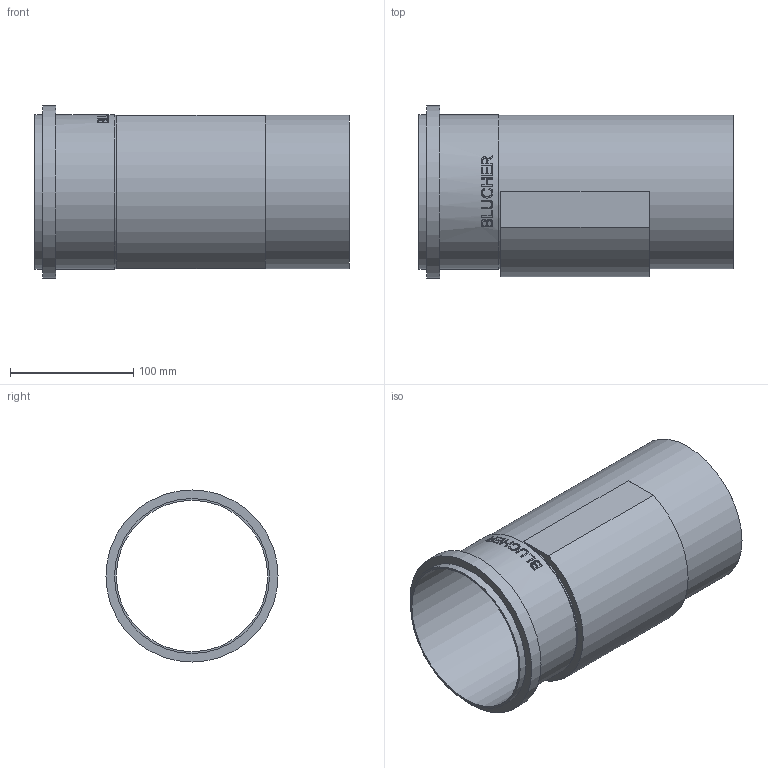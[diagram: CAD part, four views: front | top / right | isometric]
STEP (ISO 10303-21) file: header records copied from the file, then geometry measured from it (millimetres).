
FILE_DESCRIPTION((''),'2;1');
FILE_NAME('I:\WATTS\3D_CAD\3D_CAD_Models\Blucher_Drains\Fittings\Access Fittings\WebsiteFiles\3D\STEP\AP-5-316.stp','2009-12-22T10:27:34',('menesek'),(''),'Autodesk Inventor 2010','Autodesk Inventor 2010','');
FILE_SCHEMA(('AUTOMOTIVE_DESIGN { 1 0 10303 214 1 1 1 1 }'));
Length unit declared in the file: inch
Products named in the file (1): AP-5-316
Bounding box: 255.52 x 139.95 x 139.95 mm (x, y, z)
Volume: 273447.5 mm3; surface area: 211103.2 mm2
Topology: 1 solids, 1 shells, 113 faces, 291 edges, 194 vertices
Faces by surface type: plane 63, bspline 34, cylinder 16
Full cylindrical faces by diameter (mm): 122.936 x1, 124.968 x1, 125.984 x2, 139.954 x1
Entity records: 14226 total; most frequent: CARTESIAN_POINT 11727, ORIENTED_EDGE 572, DIRECTION 382, EDGE_CURVE 286, VERTEX_POINT 194, EDGE_LOOP 134, AXIS2_PLACEMENT_3D 129, VECTOR 124
